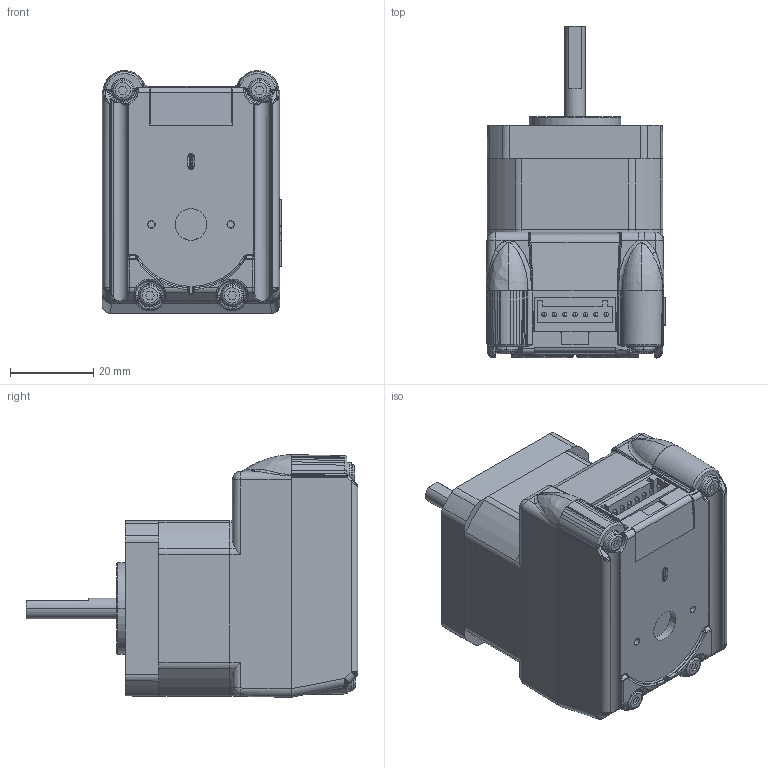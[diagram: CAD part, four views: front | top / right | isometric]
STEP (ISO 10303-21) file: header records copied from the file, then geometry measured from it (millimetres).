
FILE_DESCRIPTION(('MDrive17 Plus Standard Motor, Single Stack'),'1');
FILE_NAME('MDrive17 Plus Standard Motor, Single Stack.stp',' ',('P. Bordua, C.I.D.'),('Intelligent Motion Systems, Inc.'),'ACIS Interop R17','Kubotek KeyCreator V7.0.0 (5795)','Kubotek USA, Inc.');
FILE_SCHEMA(('automotive_design'));
Length unit declared in the file: inch
Products named in the file (3): MDrive17 Plus[9]
Bounding box: 43.22 x 79.76 x 58.31 mm (x, y, z)
Volume: 110907.8 mm3; surface area: 24556.5 mm2
Topology: 3 solids, 3 shells, 1264 faces, 3227 edges, 1991 vertices
Faces by surface type: plane 464, bspline 406, cylinder 259, torus 62, cone 49, sphere 24
Entity records: 115687 total; most frequent: CARTESIAN_POINT 49534, PRESENTATION_STYLE_ASSIGNMENT 7654, COLOUR_RGB 7654, STYLED_ITEM 6456, ORIENTED_EDGE 6402, CURVE_STYLE 4399, DRAUGHTING_PRE_DEFINED_CURVE_FONT 4399, DIRECTION 3403
